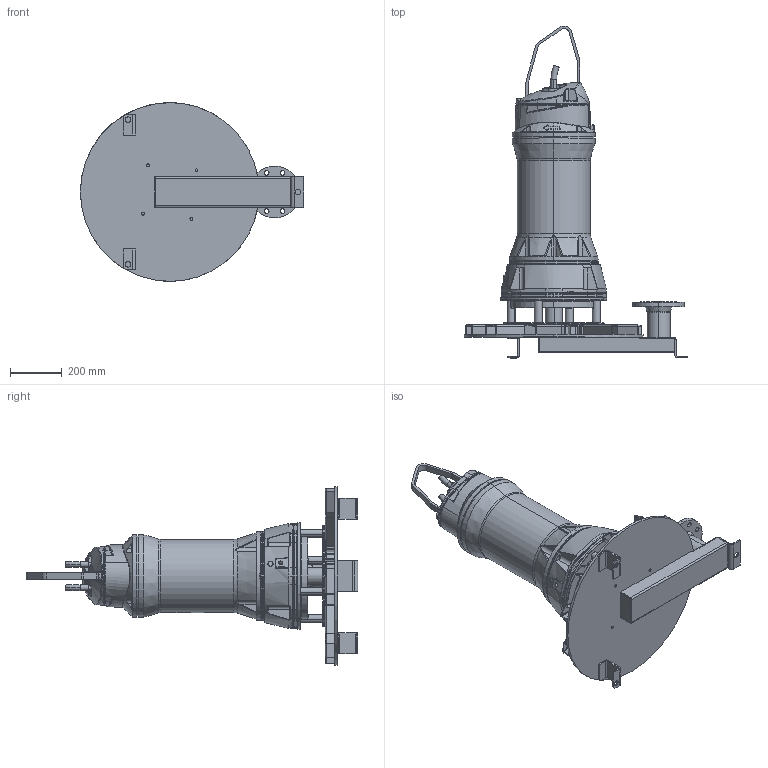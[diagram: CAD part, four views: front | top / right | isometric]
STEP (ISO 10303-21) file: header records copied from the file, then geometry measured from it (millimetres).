
FILE_DESCRIPTION (( 'STEP AP214' ), '1' );
FILE_NAME ('PE3_XTA302_A.STEP', '2017-05-29T08:27:17', ( '' ), ( '' ), 'SwSTEP 2.0', 'SolidWorks 2017', '' );
FILE_SCHEMA (( 'AUTOMOTIVE_DESIGN' ));
Length unit declared in the file: millimetre
Products named in the file (1): PE3_XTA302_A
Bounding box: 862 x 1281.4 x 690 mm (x, y, z)
Volume: 73390099.5 mm3; surface area: 2985032.4 mm2
Topology: 1 solids, 21 shells, 1871 faces, 4556 edges, 2689 vertices
Faces by surface type: cylinder 679, plane 485, bspline 399, torus 179, cone 95, sphere 34
Entity records: 92808 total; most frequent: CARTESIAN_POINT 31744, ORIENTED_EDGE 8964, DIRECTION 7899, EDGE_CURVE 4482, AXIS2_PLACEMENT_3D 3152, VERTEX_POINT 2689, EDGE_LOOP 2001, UNCERTAINTY_MEASURE_WITH_UNIT 1874
